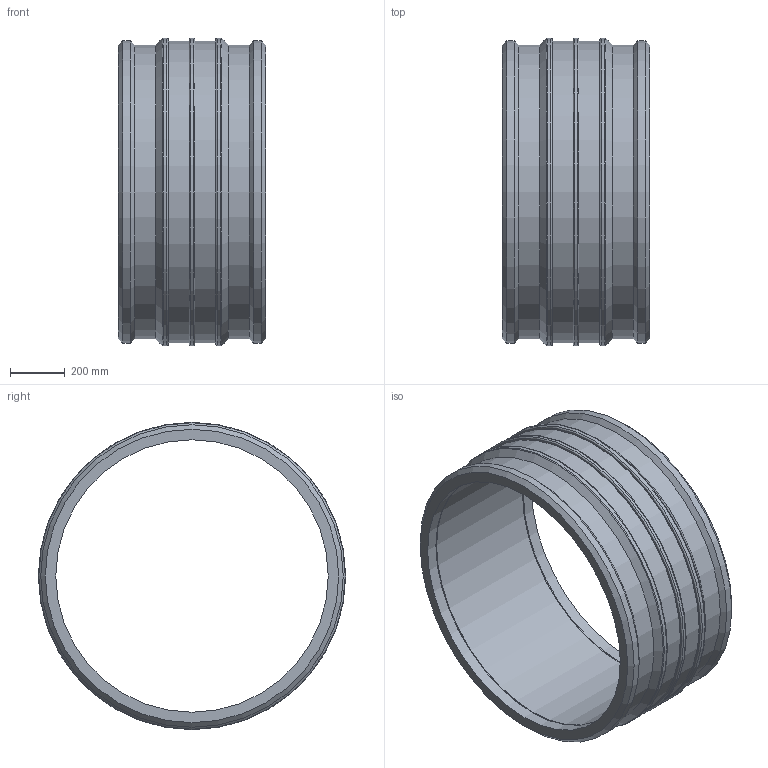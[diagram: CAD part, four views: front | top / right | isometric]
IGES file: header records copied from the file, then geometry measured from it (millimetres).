
Global section: file name: 4601031000.ipt; native system: Autodesk Inventor 2019; preprocessor: unknown; author: KIM; date: 20201209.143838; units: millimetre
Bounding box: 540 x 1128 x 1128 mm (x, y, z)
Volume: 87787620.9 mm3; surface area: 4107339.9 mm2
Topology: 1 solids, 1 shells, 48 faces, 106 edges, 70 vertices
Faces by surface type: cylinder 15, plane 14, revolution 13, cone 6
Full cylindrical faces by diameter (mm): 4 x2, 1076.7 x2, 1105.44 x2, 1110 x2, 1128 x3
